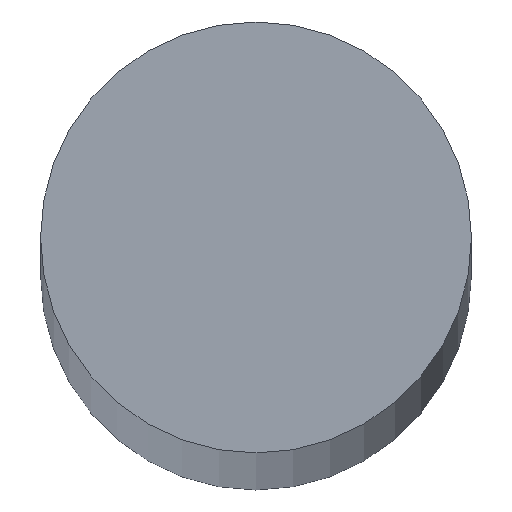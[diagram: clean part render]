
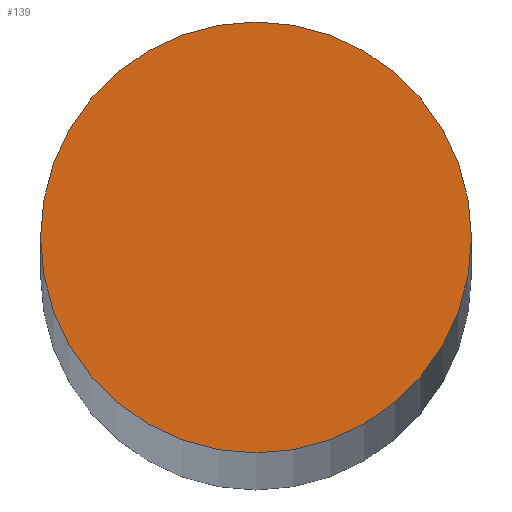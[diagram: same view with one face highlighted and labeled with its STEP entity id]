
A CAD part, top view. The second image highlights one B-rep face of the part: STEP entity #139.
In plain terms, the highlighted planar face has unit normal (0, 0, 1).
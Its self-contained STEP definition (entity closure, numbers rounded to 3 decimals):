
#3 = EDGE_LOOP ( 'NONE', ( #10, #9 ) ) ;
#9 = ORIENTED_EDGE ( 'NONE', *, *, #56, .T. ) ;
#10 = ORIENTED_EDGE ( 'NONE', *, *, #54, .T. ) ;
#26 = FACE_OUTER_BOUND ( 'NONE', #3, .T. ) ;
#27 = CIRCLE ( 'NONE', #66, 6. ) ;
#29 = CIRCLE ( 'NONE', #59, 6. ) ;
#54 = EDGE_CURVE ( 'NONE', #75, #74, #27, .T. ) ;
#56 = EDGE_CURVE ( 'NONE', #74, #75, #29, .T. ) ;
#59 = AXIS2_PLACEMENT_3D ( 'NONE', #90, #92, #93 ) ;
#66 = AXIS2_PLACEMENT_3D ( 'NONE', #85, #88, #89 ) ;
#68 = AXIS2_PLACEMENT_3D ( 'NONE', #116, #119, #120 ) ;
#74 = VERTEX_POINT ( 'NONE', #97 ) ;
#75 = VERTEX_POINT ( 'NONE', #103 ) ;
#85 = CARTESIAN_POINT ( 'NONE',  ( 0., 0., 295.5 ) ) ;
#88 = DIRECTION ( 'NONE',  ( 0., 0., 1. ) ) ;
#89 = DIRECTION ( 'NONE',  ( 1., 0., 0. ) ) ;
#90 = CARTESIAN_POINT ( 'NONE',  ( 0., 0., 295.5 ) ) ;
#92 = DIRECTION ( 'NONE',  ( 0., 0., 1. ) ) ;
#93 = DIRECTION ( 'NONE',  ( 1., 0., 0. ) ) ;
#97 = CARTESIAN_POINT ( 'NONE',  ( 6., 0., 295.5 ) ) ;
#103 = CARTESIAN_POINT ( 'NONE',  ( -6., 0., 295.5 ) ) ;
#116 = CARTESIAN_POINT ( 'NONE',  ( 0., 0., 295.5 ) ) ;
#117 = PLANE ( 'NONE',  #68 ) ;
#119 = DIRECTION ( 'NONE',  ( 0., 0., 1. ) ) ;
#120 = DIRECTION ( 'NONE',  ( 1., 0., 0. ) ) ;
#139 = ADVANCED_FACE ( 'NONE', ( #26 ), #117, .T. ) ;
